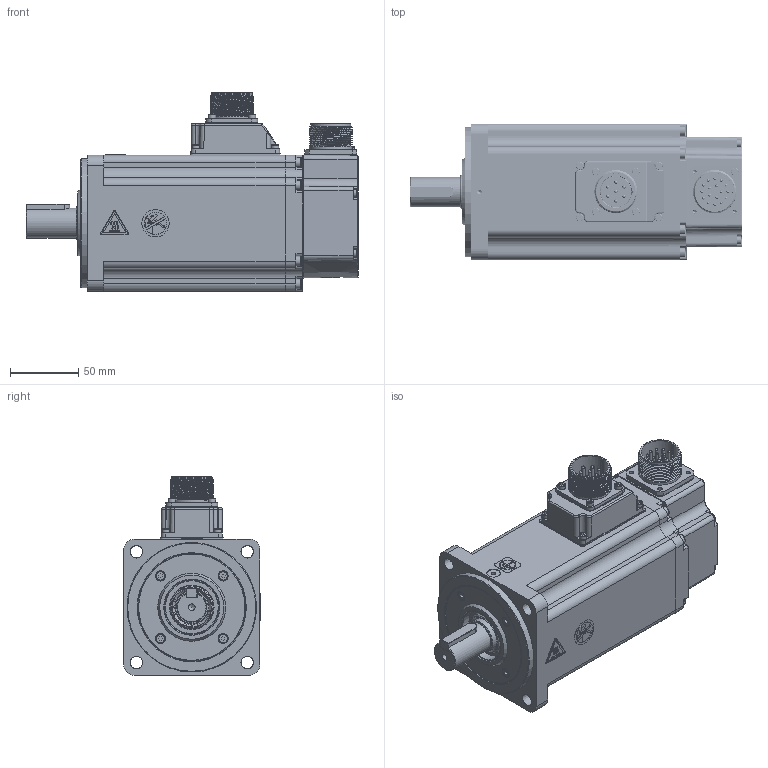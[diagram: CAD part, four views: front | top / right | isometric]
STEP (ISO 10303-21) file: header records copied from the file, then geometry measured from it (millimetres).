
FILE_DESCRIPTION( ( 'Unknown' ), '1' );
FILE_NAME( 'X:/05_Progetto TCE/010-TCE motor drawings/TCE100/vuoti/TCE100 4B XX 3 A2 0 C3.stp', 'Unknown', ( 'Unknown' ), ( 'Unknown' ), 'PSStep 17.0.49', 'Unknown', ' ' );
FILE_SCHEMA( ( 'AUTOMOTIVE_DESIGN { 1 0 10303 214 1 1 1 1 }' ) );
Length unit declared in the file: millimetre
Products named in the file (48): U5140004 vuoto; 005911000150; 003799000580; 005911000201; 003303000373; 005117001750; 003303000370; 003108002568_90°; 003120002503; Assem1; 005911000203; 005123000500; 005911000493; 005911000344; 005911000206; 005911000183; 005123000420; 003103001501; 003251022001; 001107000620; 003155000301; 005008000742-oa0; 005008000790-oa1; 005008000690-oa2; 005117001754; 005119000312; 005113000596; 005204000003; 005204000002; 005204000001; 003003050003
Assembly tree (71 placements, depth 3):
  Assem1
    005911000203  x4
    005123000500
    005123000500
    005123000500
    005123000500
    005123000500
    005123000500
    005123000500
    005123000500
    005123000500
    005911000493  x4
    005911000344
    005911000206  x8
    005911000183  x4
    005123000420
    005123000420
    005123000420
    005123000420
    005123000420
    005123000420
    005123000420
    003103001501
    003303000373
    003251022001
    001107000620
    003155000301
    005008000742-oa0
    005008000790-oa1
    005008000690-oa2
    005117001754
    005119000312
    005119000312
    005113000596
    005204000003
    005204000002
    005204000001
    003003050003
    U5140004 vuoto
      005911000150
      003799000580
      005911000201  x8
      003303000373
      005117001750
      005117001750
      003303000370
      003108002568_90°
      003120002503
      003120002503
Bounding box: 243.5 x 100.3 x 145.8 mm (x, y, z)
Volume: 735320.8 mm3; surface area: 318782.8 mm2
Topology: 70 solids, 80 shells, 2944 faces, 7289 edges, 4692 vertices
Faces by surface type: plane 1502, cylinder 683, extrusion 233, cone 169, torus 152, bspline 103, sphere 102
Full cylindrical faces by diameter (mm): 2 x35, 2.224 x1, 2.4 x8, 2.459 x24, 2.5 x1, 2.6 x1, 2.8 x7, 3 x31, 3.048 x4, 3.2 x5, 3.242 x35, 3.5 x13, 3.6 x1, 3.7 x8, 3.8 x2, 4 x29, 4.5 x12, 4.7 x11, 4.917 x1, 5.1 x1, 5.5 x27, 5.8 x6, 7 x16, 7.5 x4, 8 x5, 10 x1, 11 x1, 12 x1, 16.99 x1, 17 x2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
Entity records: 111390 total; most frequent: CARTESIAN_POINT 33237, ORIENTED_EDGE 11400, DIRECTION 11341, EDGE_CURVE 5700, VERTEX_POINT 4012, AXIS2_PLACEMENT_3D 3945, EDGE_LOOP 3457, VECTOR 3451
